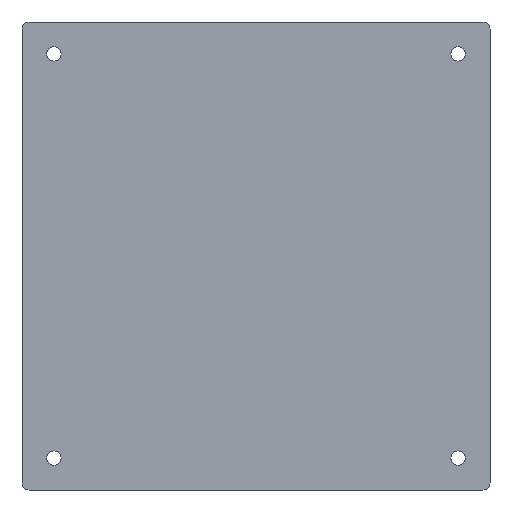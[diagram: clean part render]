
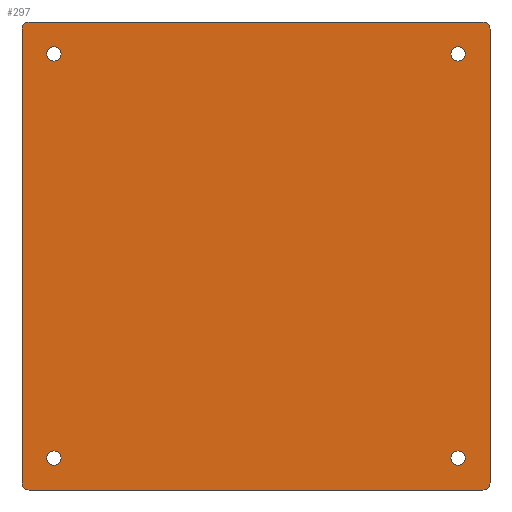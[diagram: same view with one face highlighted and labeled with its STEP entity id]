
A CAD part, front view. The second image highlights one B-rep face of the part: STEP entity #297.
In plain terms, the highlighted planar face has unit normal (0, -1, 0).
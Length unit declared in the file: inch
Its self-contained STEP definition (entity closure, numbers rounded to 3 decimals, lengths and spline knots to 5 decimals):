
#1 = EDGE_CURVE ( 'NONE', #391, #322, #65, .T. ) ;
#8 = CARTESIAN_POINT ( 'NONE',  ( -0.25, 0., -16. ) ) ;
#9 = CARTESIAN_POINT ( 'NONE',  ( 0., 0., -16.25 ) ) ;
#11 = VERTEX_POINT ( 'NONE', #625 ) ;
#13 = ORIENTED_EDGE ( 'NONE', *, *, #395, .F. ) ;
#15 = DIRECTION ( 'NONE',  ( 0., 1., 0. ) ) ;
#29 = CARTESIAN_POINT ( 'NONE',  ( 0.875, 0., -0.875 ) ) ;
#30 = AXIS2_PLACEMENT_3D ( 'NONE', #358, #179, #336 ) ;
#34 = AXIS2_PLACEMENT_3D ( 'NONE', #275, #35, #284 ) ;
#35 = DIRECTION ( 'NONE',  ( 0., 1., 0. ) ) ;
#38 = DIRECTION ( 'NONE',  ( 0., 0., 1. ) ) ;
#41 = DIRECTION ( 'NONE',  ( 0., 1., 0. ) ) ;
#48 = DIRECTION ( 'NONE',  ( 0., 1., 0. ) ) ;
#57 = ORIENTED_EDGE ( 'NONE', *, *, #142, .F. ) ;
#58 = EDGE_LOOP ( 'NONE', ( #367, #146 ) ) ;
#61 = DIRECTION ( 'NONE',  ( 0., 0., 1. ) ) ;
#62 = CIRCLE ( 'NONE', #419, 0.25 ) ;
#64 = FACE_BOUND ( 'NONE', #621, .T. ) ;
#65 = CIRCLE ( 'NONE', #403, 0.25 ) ;
#68 = CARTESIAN_POINT ( 'NONE',  ( 15.125, 0., -1.125 ) ) ;
#70 = AXIS2_PLACEMENT_3D ( 'NONE', #452, #113, #508 ) ;
#71 = VERTEX_POINT ( 'NONE', #516 ) ;
#72 = CARTESIAN_POINT ( 'NONE',  ( 16.25, 0., -16. ) ) ;
#78 = FACE_OUTER_BOUND ( 'NONE', #137, .T. ) ;
#79 = DIRECTION ( 'NONE',  ( 0., 1., 0. ) ) ;
#80 = DIRECTION ( 'NONE',  ( 0., 1., 0. ) ) ;
#81 = CARTESIAN_POINT ( 'NONE',  ( 15.125, 0., -15.125 ) ) ;
#90 = DIRECTION ( 'NONE',  ( 0., 0., 1. ) ) ;
#92 = AXIS2_PLACEMENT_3D ( 'NONE', #273, #80, #485 ) ;
#101 = VERTEX_POINT ( 'NONE', #363 ) ;
#105 = AXIS2_PLACEMENT_3D ( 'NONE', #81, #585, #430 ) ;
#109 = CARTESIAN_POINT ( 'NONE',  ( 0.875, 0., -0.625 ) ) ;
#111 = VERTEX_POINT ( 'NONE', #527 ) ;
#112 = VECTOR ( 'NONE', #318, 39.37008 ) ;
#113 = DIRECTION ( 'NONE',  ( 0., 1., 0. ) ) ;
#116 = AXIS2_PLACEMENT_3D ( 'NONE', #29, #266, #473 ) ;
#121 = EDGE_CURVE ( 'NONE', #111, #161, #638, .T. ) ;
#132 = EDGE_CURVE ( 'NONE', #497, #380, #392, .T. ) ;
#137 = EDGE_LOOP ( 'NONE', ( #261, #200, #207, #57, #483, #436, #13, #555 ) ) ;
#139 = CARTESIAN_POINT ( 'NONE',  ( 15.125, 0., -0.625 ) ) ;
#142 = EDGE_CURVE ( 'NONE', #101, #391, #484, .T. ) ;
#143 = PLANE ( 'NONE',  #70 ) ;
#146 = ORIENTED_EDGE ( 'NONE', *, *, #315, .T. ) ;
#147 = EDGE_CURVE ( 'NONE', #11, #184, #233, .T. ) ;
#156 = CIRCLE ( 'NONE', #116, 0.25 ) ;
#161 = VERTEX_POINT ( 'NONE', #372 ) ;
#164 = CARTESIAN_POINT ( 'NONE',  ( 15.125, 0., -15.375 ) ) ;
#171 = CARTESIAN_POINT ( 'NONE',  ( 0.875, 0., -1.125 ) ) ;
#179 = DIRECTION ( 'NONE',  ( 0., 1., 0. ) ) ;
#181 = CIRCLE ( 'NONE', #528, 0.25 ) ;
#184 = VERTEX_POINT ( 'NONE', #227 ) ;
#185 = EDGE_CURVE ( 'NONE', #184, #11, #562, .T. ) ;
#191 = LINE ( 'NONE', #8, #439 ) ;
#199 = ORIENTED_EDGE ( 'NONE', *, *, #618, .T. ) ;
#200 = ORIENTED_EDGE ( 'NONE', *, *, #429, .F. ) ;
#204 = EDGE_CURVE ( 'NONE', #380, #497, #465, .T. ) ;
#207 = ORIENTED_EDGE ( 'NONE', *, *, #1, .F. ) ;
#208 = FACE_BOUND ( 'NONE', #58, .T. ) ;
#215 = ORIENTED_EDGE ( 'NONE', *, *, #185, .T. ) ;
#223 = DIRECTION ( 'NONE',  ( 1., 0., 0. ) ) ;
#227 = CARTESIAN_POINT ( 'NONE',  ( 0.875, 0., -14.875 ) ) ;
#229 = CARTESIAN_POINT ( 'NONE',  ( 16.25, 0., 0. ) ) ;
#232 = VERTEX_POINT ( 'NONE', #543 ) ;
#233 = CIRCLE ( 'NONE', #92, 0.25 ) ;
#246 = CARTESIAN_POINT ( 'NONE',  ( 0.875, 0., -0.875 ) ) ;
#248 = CIRCLE ( 'NONE', #30, 0.25 ) ;
#252 = DIRECTION ( 'NONE',  ( 0., 0., 1. ) ) ;
#259 = AXIS2_PLACEMENT_3D ( 'NONE', #565, #467, #515 ) ;
#261 = ORIENTED_EDGE ( 'NONE', *, *, #393, .F. ) ;
#264 = DIRECTION ( 'NONE',  ( 0., 1., 0. ) ) ;
#266 = DIRECTION ( 'NONE',  ( 0., 1., 0. ) ) ;
#273 = CARTESIAN_POINT ( 'NONE',  ( 0.875, 0., -15.125 ) ) ;
#275 = CARTESIAN_POINT ( 'NONE',  ( 15.125, 0., -0.875 ) ) ;
#284 = DIRECTION ( 'NONE',  ( 0., 0., 1. ) ) ;
#285 = ORIENTED_EDGE ( 'NONE', *, *, #414, .T. ) ;
#297 = ADVANCED_FACE ( 'NONE', ( #208, #64, #78, #347, #560 ), #143, .F. ) ;
#298 = AXIS2_PLACEMENT_3D ( 'NONE', #422, #431, #38 ) ;
#315 = EDGE_CURVE ( 'NONE', #534, #332, #156, .T. ) ;
#318 = DIRECTION ( 'NONE',  ( 0., 0., -1. ) ) ;
#322 = VERTEX_POINT ( 'NONE', #572 ) ;
#332 = VERTEX_POINT ( 'NONE', #171 ) ;
#336 = DIRECTION ( 'NONE',  ( 0., 0., 1. ) ) ;
#347 = FACE_BOUND ( 'NONE', #375, .T. ) ;
#358 = CARTESIAN_POINT ( 'NONE',  ( 15.125, 0., -15.125 ) ) ;
#359 = DIRECTION ( 'NONE',  ( 0., 0., 1. ) ) ;
#363 = CARTESIAN_POINT ( 'NONE',  ( 16.25, 0., 0. ) ) ;
#365 = CIRCLE ( 'NONE', #596, 0.25 ) ;
#367 = ORIENTED_EDGE ( 'NONE', *, *, #619, .T. ) ;
#371 = CARTESIAN_POINT ( 'NONE',  ( 0., 0., -16. ) ) ;
#372 = CARTESIAN_POINT ( 'NONE',  ( 16., 0., 0.25 ) ) ;
#375 = EDGE_LOOP ( 'NONE', ( #536, #215 ) ) ;
#380 = VERTEX_POINT ( 'NONE', #68 ) ;
#391 = VERTEX_POINT ( 'NONE', #72 ) ;
#392 = CIRCLE ( 'NONE', #298, 0.25 ) ;
#393 = EDGE_CURVE ( 'NONE', #511, #71, #365, .T. ) ;
#395 = EDGE_CURVE ( 'NONE', #615, #111, #517, .T. ) ;
#397 = CARTESIAN_POINT ( 'NONE',  ( 16., 0., 0. ) ) ;
#403 = AXIS2_PLACEMENT_3D ( 'NONE', #564, #264, #359 ) ;
#412 = CARTESIAN_POINT ( 'NONE',  ( 16., 0., -16.25 ) ) ;
#414 = EDGE_CURVE ( 'NONE', #423, #232, #532, .T. ) ;
#419 = AXIS2_PLACEMENT_3D ( 'NONE', #397, #15, #252 ) ;
#422 = CARTESIAN_POINT ( 'NONE',  ( 15.125, 0., -0.875 ) ) ;
#423 = VERTEX_POINT ( 'NONE', #164 ) ;
#429 = EDGE_CURVE ( 'NONE', #322, #511, #576, .T. ) ;
#430 = DIRECTION ( 'NONE',  ( 0., 0., 1. ) ) ;
#431 = DIRECTION ( 'NONE',  ( 0., 1., 0. ) ) ;
#436 = ORIENTED_EDGE ( 'NONE', *, *, #121, .F. ) ;
#439 = VECTOR ( 'NONE', #61, 39.37008 ) ;
#452 = CARTESIAN_POINT ( 'NONE',  ( 0., 0., -16. ) ) ;
#461 = DIRECTION ( 'NONE',  ( 0., 0., 1. ) ) ;
#465 = CIRCLE ( 'NONE', #34, 0.25 ) ;
#466 = ORIENTED_EDGE ( 'NONE', *, *, #204, .T. ) ;
#467 = DIRECTION ( 'NONE',  ( 0., 1., 0. ) ) ;
#472 = VECTOR ( 'NONE', #639, 39.37008 ) ;
#473 = DIRECTION ( 'NONE',  ( 0., 0., 1. ) ) ;
#483 = ORIENTED_EDGE ( 'NONE', *, *, #547, .F. ) ;
#484 = LINE ( 'NONE', #229, #112 ) ;
#485 = DIRECTION ( 'NONE',  ( 0., 0., 1. ) ) ;
#497 = VERTEX_POINT ( 'NONE', #139 ) ;
#499 = VECTOR ( 'NONE', #223, 39.37008 ) ;
#508 = DIRECTION ( 'NONE',  ( 0., 0., 1. ) ) ;
#511 = VERTEX_POINT ( 'NONE', #9 ) ;
#515 = DIRECTION ( 'NONE',  ( 0., 0., 1. ) ) ;
#516 = CARTESIAN_POINT ( 'NONE',  ( -0.25, 0., -16. ) ) ;
#517 = CIRCLE ( 'NONE', #259, 0.25 ) ;
#527 = CARTESIAN_POINT ( 'NONE',  ( 0., 0., 0.25 ) ) ;
#528 = AXIS2_PLACEMENT_3D ( 'NONE', #246, #48, #90 ) ;
#532 = CIRCLE ( 'NONE', #105, 0.25 ) ;
#534 = VERTEX_POINT ( 'NONE', #109 ) ;
#536 = ORIENTED_EDGE ( 'NONE', *, *, #147, .T. ) ;
#539 = CARTESIAN_POINT ( 'NONE',  ( -0.25, 0., 0. ) ) ;
#542 = AXIS2_PLACEMENT_3D ( 'NONE', #584, #41, #586 ) ;
#543 = CARTESIAN_POINT ( 'NONE',  ( 15.125, 0., -14.875 ) ) ;
#547 = EDGE_CURVE ( 'NONE', #161, #101, #62, .T. ) ;
#555 = ORIENTED_EDGE ( 'NONE', *, *, #566, .F. ) ;
#560 = FACE_BOUND ( 'NONE', #610, .T. ) ;
#562 = CIRCLE ( 'NONE', #542, 0.25 ) ;
#564 = CARTESIAN_POINT ( 'NONE',  ( 16., 0., -16. ) ) ;
#565 = CARTESIAN_POINT ( 'NONE',  ( 0., 0., 0. ) ) ;
#566 = EDGE_CURVE ( 'NONE', #71, #615, #191, .T. ) ;
#572 = CARTESIAN_POINT ( 'NONE',  ( 16., 0., -16.25 ) ) ;
#576 = LINE ( 'NONE', #412, #472 ) ;
#581 = CARTESIAN_POINT ( 'NONE',  ( 0., 0., 0.25 ) ) ;
#584 = CARTESIAN_POINT ( 'NONE',  ( 0.875, 0., -15.125 ) ) ;
#585 = DIRECTION ( 'NONE',  ( 0., 1., 0. ) ) ;
#586 = DIRECTION ( 'NONE',  ( 0., 0., 1. ) ) ;
#590 = ORIENTED_EDGE ( 'NONE', *, *, #132, .T. ) ;
#596 = AXIS2_PLACEMENT_3D ( 'NONE', #371, #79, #461 ) ;
#610 = EDGE_LOOP ( 'NONE', ( #285, #199 ) ) ;
#615 = VERTEX_POINT ( 'NONE', #539 ) ;
#618 = EDGE_CURVE ( 'NONE', #232, #423, #248, .T. ) ;
#619 = EDGE_CURVE ( 'NONE', #332, #534, #181, .T. ) ;
#621 = EDGE_LOOP ( 'NONE', ( #466, #590 ) ) ;
#625 = CARTESIAN_POINT ( 'NONE',  ( 0.875, 0., -15.375 ) ) ;
#638 = LINE ( 'NONE', #581, #499 ) ;
#639 = DIRECTION ( 'NONE',  ( -1., 0., 0. ) ) ;
